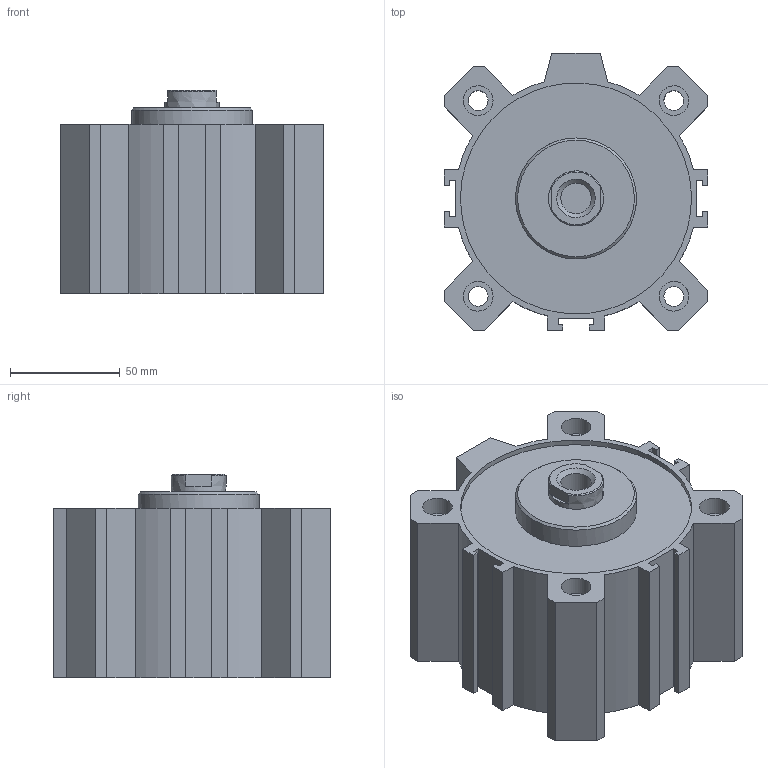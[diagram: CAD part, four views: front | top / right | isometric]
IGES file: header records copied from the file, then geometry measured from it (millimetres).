
Global section: file name: 1511_100_0025; native system: Autodesk Inventor 2014; preprocessor: unknown; author: A. Manieri; date: 20160824.162534; units: millimetre
Bounding box: 120 x 126 x 92.5 mm (x, y, z)
Volume: 705796.7 mm3; surface area: 141662.4 mm2
Topology: 2 solids, 2 shells, 119 faces, 307 edges, 210 vertices
Faces by surface type: bspline 119
